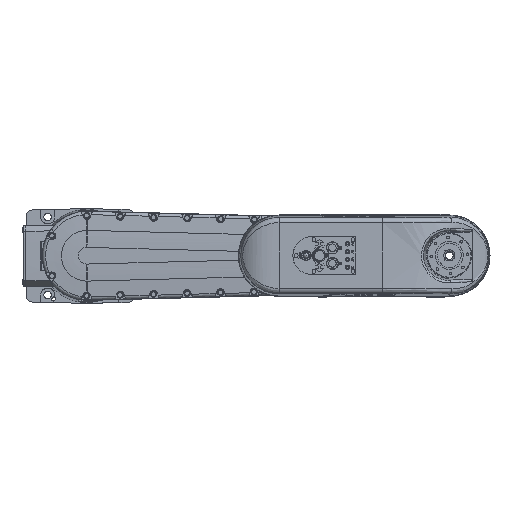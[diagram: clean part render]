
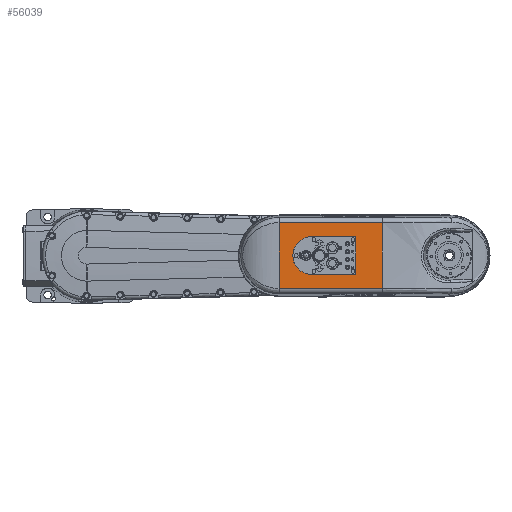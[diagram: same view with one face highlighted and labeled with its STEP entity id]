
A CAD part, top view. The second image highlights one B-rep face of the part: STEP entity #56039.
In plain terms, the highlighted planar face has unit normal (0, 0, 1).
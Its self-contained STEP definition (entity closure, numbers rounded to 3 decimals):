
#4932 = CARTESIAN_POINT ( 'NONE',  ( 482.5, -32.001, 457.7 ) ) ;
#5316 = VECTOR ( 'NONE', #39949, 1000. ) ;
#6736 = CARTESIAN_POINT ( 'NONE',  ( 345., 0., 457.7 ) ) ;
#6858 = CARTESIAN_POINT ( 'NONE',  ( 482.5, 32.001, 457.7 ) ) ;
#7770 = DIRECTION ( 'NONE',  ( 0., 0., 1. ) ) ;
#9711 = EDGE_CURVE ( 'NONE', #71638, #86678, #74683, .T. ) ;
#10050 = CARTESIAN_POINT ( 'NONE',  ( 530., -705.455, 457.7 ) ) ;
#10059 = CARTESIAN_POINT ( 'NONE',  ( 345., -705.242, 457.7 ) ) ;
#11188 = ORIENTED_EDGE ( 'NONE', *, *, #40214, .F. ) ;
#11561 = ORIENTED_EDGE ( 'NONE', *, *, #70437, .T. ) ;
#11905 = VERTEX_POINT ( 'NONE', #88549 ) ;
#13021 = ORIENTED_EDGE ( 'NONE', *, *, #13284, .T. ) ;
#13284 = EDGE_CURVE ( 'NONE', #94045, #11905, #61556, .T. ) ;
#13472 = ORIENTED_EDGE ( 'NONE', *, *, #17557, .F. ) ;
#14780 = LINE ( 'NONE', #15283, #83597 ) ;
#15283 = CARTESIAN_POINT ( 'NONE',  ( 345., 59.156, 457.7 ) ) ;
#15595 = FACE_BOUND ( 'NONE', #20391, .T. ) ;
#16586 = DIRECTION ( 'NONE',  ( 1., 0., 0. ) ) ;
#17557 = EDGE_CURVE ( 'NONE', #94045, #42621, #80086, .T. ) ;
#18374 = LINE ( 'NONE', #10050, #50080 ) ;
#20083 = CARTESIAN_POINT ( 'NONE',  ( 480.501, -34., 457.7 ) ) ;
#20313 = EDGE_CURVE ( 'NONE', #26664, #11905, #28374, .T. ) ;
#20391 = EDGE_LOOP ( 'NONE', ( #13472, #13021, #79270, #52967, #44096, #11188 ) ) ;
#21573 = CARTESIAN_POINT ( 'NONE',  ( 403.5, 34., 457.7 ) ) ;
#22536 = ORIENTED_EDGE ( 'NONE', *, *, #95519, .T. ) ;
#24459 = FACE_OUTER_BOUND ( 'NONE', #86791, .T. ) ;
#24546 = ORIENTED_EDGE ( 'NONE', *, *, #93711, .T. ) ;
#26664 = VERTEX_POINT ( 'NONE', #4932 ) ;
#27010 = EDGE_CURVE ( 'NONE', #85007, #44139, #63526, .T. ) ;
#28145 = CARTESIAN_POINT ( 'NONE',  ( 345., -59.156, 457.7 ) ) ;
#28374 = LINE ( 'NONE', #36709, #35045 ) ;
#30653 = CARTESIAN_POINT ( 'NONE',  ( 345., 59.156, 457.7 ) ) ;
#31275 = CARTESIAN_POINT ( 'NONE',  ( 482.5, -33.172, 457.7 ) ) ;
#33499 = DIRECTION ( 'NONE',  ( 0., 1., 0. ) ) ;
#33884 = DIRECTION ( 'NONE',  ( 0., 0., 1. ) ) ;
#35045 = VECTOR ( 'NONE', #35708, 1000. ) ;
#35708 = DIRECTION ( 'NONE',  ( 0., 1., 0. ) ) ;
#36709 = CARTESIAN_POINT ( 'NONE',  ( 482.5, 34., 457.7 ) ) ;
#37541 = EDGE_CURVE ( 'NONE', #26664, #44139, #85574, .T. ) ;
#38065 = CARTESIAN_POINT ( 'NONE',  ( 482.5, -32.001, 457.7 ) ) ;
#39949 = DIRECTION ( 'NONE',  ( -1., 0., 0. ) ) ;
#40054 = DIRECTION ( 'NONE',  ( 1., 0., 0. ) ) ;
#40214 = EDGE_CURVE ( 'NONE', #42621, #85007, #45634, .T. ) ;
#40812 = DIRECTION ( 'NONE',  ( -1., 0., 0. ) ) ;
#41096 = CARTESIAN_POINT ( 'NONE',  ( 482.5, -34., 457.7 ) ) ;
#42621 = VERTEX_POINT ( 'NONE', #21573 ) ;
#44096 = ORIENTED_EDGE ( 'NONE', *, *, #27010, .F. ) ;
#44139 = VERTEX_POINT ( 'NONE', #20083 ) ;
#44781 = LINE ( 'NONE', #53098, #96302 ) ;
#45406 = CARTESIAN_POINT ( 'NONE',  ( 480.501, -34., 457.7 ) ) ;
#45634 = CIRCLE ( 'NONE', #57223, 34. ) ;
#48097 = ORIENTED_EDGE ( 'NONE', *, *, #9711, .F. ) ;
#48647 = CARTESIAN_POINT ( 'NONE',  ( 480.501, 34., 457.7 ) ) ;
#49177 = DIRECTION ( 'NONE',  ( 0., 1., 0. ) ) ;
#50080 = VECTOR ( 'NONE', #49177, 1000. ) ;
#52967 = ORIENTED_EDGE ( 'NONE', *, *, #37541, .T. ) ;
#53098 = CARTESIAN_POINT ( 'NONE',  ( 530., -59.156, 457.7 ) ) ;
#56039 = ADVANCED_FACE ( 'NONE', ( #15595, #24459 ), #56725, .T. ) ;
#56725 = PLANE ( 'NONE',  #97228 ) ;
#57223 = AXIS2_PLACEMENT_3D ( 'NONE', #64693, #33884, #98452 ) ;
#58196 = VERTEX_POINT ( 'NONE', #95950 ) ;
#61556 =( BOUNDED_CURVE ( )  B_SPLINE_CURVE ( 3, ( #62123, #79297, #94872, #6858 ),
 .UNSPECIFIED., .F., .T. ) 
 B_SPLINE_CURVE_WITH_KNOTS ( ( 4, 4 ),
 ( 2.357, 3.927 ),
 .UNSPECIFIED. ) 
 CURVE ( )  GEOMETRIC_REPRESENTATION_ITEM ( )  RATIONAL_B_SPLINE_CURVE ( ( 1., 0.805, 0.805, 1. ) ) 
 REPRESENTATION_ITEM ( '' )  );
#62123 = CARTESIAN_POINT ( 'NONE',  ( 480.501, 34., 457.7 ) ) ;
#63526 = LINE ( 'NONE', #41096, #79835 ) ;
#63996 = VECTOR ( 'NONE', #33499, 1000. ) ;
#64473 = CARTESIAN_POINT ( 'NONE',  ( 482.5, 34., 457.7 ) ) ;
#64693 = CARTESIAN_POINT ( 'NONE',  ( 403.5, 0., 457.7 ) ) ;
#70437 = EDGE_CURVE ( 'NONE', #80039, #86678, #14780, .T. ) ;
#71638 = VERTEX_POINT ( 'NONE', #28145 ) ;
#74683 = LINE ( 'NONE', #10059, #63996 ) ;
#79270 = ORIENTED_EDGE ( 'NONE', *, *, #20313, .F. ) ;
#79297 = CARTESIAN_POINT ( 'NONE',  ( 481.672, 34., 457.7 ) ) ;
#79835 = VECTOR ( 'NONE', #16586, 1000. ) ;
#80039 = VERTEX_POINT ( 'NONE', #85171 ) ;
#80086 = LINE ( 'NONE', #64473, #5316 ) ;
#83597 = VECTOR ( 'NONE', #40812, 1000. ) ;
#85007 = VERTEX_POINT ( 'NONE', #96398 ) ;
#85171 = CARTESIAN_POINT ( 'NONE',  ( 530., 59.156, 457.7 ) ) ;
#85574 =( BOUNDED_CURVE ( )  B_SPLINE_CURVE ( 3, ( #38065, #31275, #92267, #45406 ),
 .UNSPECIFIED., .F., .T. ) 
 B_SPLINE_CURVE_WITH_KNOTS ( ( 4, 4 ),
 ( 2.357, 3.927 ),
 .UNSPECIFIED. ) 
 CURVE ( )  GEOMETRIC_REPRESENTATION_ITEM ( )  RATIONAL_B_SPLINE_CURVE ( ( 1., 0.805, 0.805, 1. ) ) 
 REPRESENTATION_ITEM ( '' )  );
#86678 = VERTEX_POINT ( 'NONE', #30653 ) ;
#86791 = EDGE_LOOP ( 'NONE', ( #22536, #11561, #48097, #24546 ) ) ;
#88549 = CARTESIAN_POINT ( 'NONE',  ( 482.5, 32.001, 457.7 ) ) ;
#92267 = CARTESIAN_POINT ( 'NONE',  ( 481.672, -34., 457.7 ) ) ;
#93711 = EDGE_CURVE ( 'NONE', #71638, #58196, #44781, .T. ) ;
#94045 = VERTEX_POINT ( 'NONE', #48647 ) ;
#94872 = CARTESIAN_POINT ( 'NONE',  ( 482.5, 33.172, 457.7 ) ) ;
#95519 = EDGE_CURVE ( 'NONE', #58196, #80039, #18374, .T. ) ;
#95950 = CARTESIAN_POINT ( 'NONE',  ( 530., -59.156, 457.7 ) ) ;
#96302 = VECTOR ( 'NONE', #100456, 1000. ) ;
#96398 = CARTESIAN_POINT ( 'NONE',  ( 403.5, -34., 457.7 ) ) ;
#97228 = AXIS2_PLACEMENT_3D ( 'NONE', #6736, #7770, #40054 ) ;
#98452 = DIRECTION ( 'NONE',  ( 0., 1., 0. ) ) ;
#100456 = DIRECTION ( 'NONE',  ( 1., 0., 0. ) ) ;
